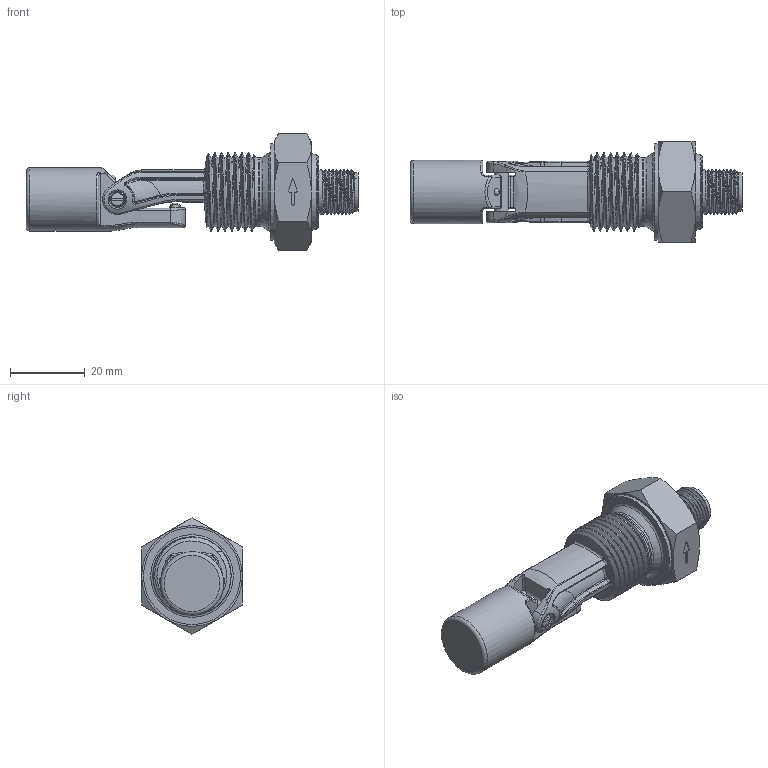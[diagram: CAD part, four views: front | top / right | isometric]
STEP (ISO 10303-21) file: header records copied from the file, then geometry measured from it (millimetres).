
FILE_DESCRIPTION(/* description */ (''),/* implementation_level */ '2;1');
FILE_NAME(/* name */ '204KS12E000_C_1-Klappschwimmer.stp',/* time_stamp */ '2020-03-03T09:34:29+01:00',/* author */ (''),/* organization */ (''),/* preprocessor_version */ 'ST-DEVELOPER v16',/* originating_system */ 'SIEMENS PLM Software NX 11.0',/* authorisation */ '');
FILE_SCHEMA (('AP203_CONFIGURATION_CONTROLLED_3D_DESIGN_OF_MECHANICAL_PARTS_AND_ASSEMBLIES_MIM_LF { 1 0 10303 403 2 1 2}'));
Length unit declared in the file: millimetre
Products named in the file (1): hi2n40181B00ltij
Bounding box: 89 x 27 x 31.18 mm (x, y, z)
Volume: 21684.1 mm3; surface area: 8650.9 mm2
Topology: 2 solids, 5 shells, 469 faces, 1161 edges, 716 vertices
Faces by surface type: plane 145, bspline 145, cylinder 111, cone 24, extrusion 20, torus 16, sphere 8
Full cylindrical faces by diameter (mm): 1.2 x2, 3.8 x1, 9.45 x1, 12 x8, 17 x1, 18.4 x1, 26 x1
Entity records: 22720 total; most frequent: CARTESIAN_POINT 13086, ORIENTED_EDGE 2174, DIRECTION 1633, EDGE_CURVE 1087, VERTEX_POINT 684, AXIS2_PLACEMENT_3D 620, EDGE_LOOP 515, ADVANCED_FACE 461
